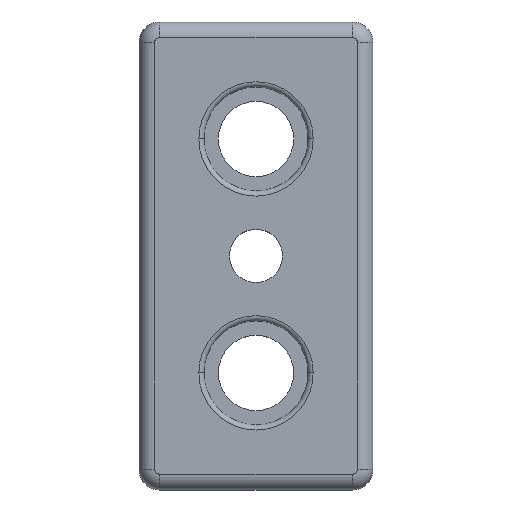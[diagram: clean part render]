
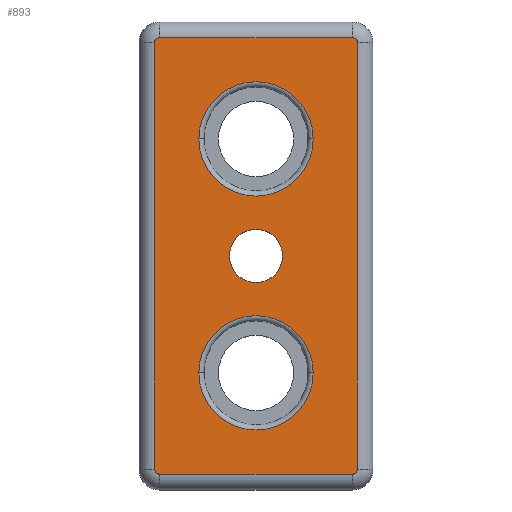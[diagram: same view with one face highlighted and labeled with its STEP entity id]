
A CAD part, top view. The second image highlights one B-rep face of the part: STEP entity #893.
In plain terms, the highlighted planar face has unit normal (0, 0, 1).
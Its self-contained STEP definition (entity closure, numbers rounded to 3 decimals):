
#34 = EDGE_CURVE ( 'NONE', #2995, #1838, #3167, .T. ) ;
#49 = AXIS2_PLACEMENT_3D ( 'NONE', #2146, #1425, #2662 ) ;
#58 = EDGE_CURVE ( 'NONE', #1505, #2999, #2575, .T. ) ;
#63 = EDGE_LOOP ( 'NONE', ( #1915, #1518, #1394, #161, #3008, #1358, #447, #2210 ) ) ;
#98 = CARTESIAN_POINT ( 'NONE',  ( 18.5, -41., 0. ) ) ;
#107 = CARTESIAN_POINT ( 'NONE',  ( 18.5, 42., 0. ) ) ;
#161 = ORIENTED_EDGE ( 'NONE', *, *, #2930, .T. ) ;
#202 = CIRCLE ( 'NONE', #998, 1. ) ;
#206 = CARTESIAN_POINT ( 'NONE',  ( -19.5, -41., 0. ) ) ;
#224 = CARTESIAN_POINT ( 'NONE',  ( 19.5, 41., 0. ) ) ;
#241 = VECTOR ( 'NONE', #1648, 1000. ) ;
#289 = EDGE_CURVE ( 'NONE', #1307, #2979, #581, .T. ) ;
#316 = VECTOR ( 'NONE', #834, 1000. ) ;
#338 = CARTESIAN_POINT ( 'NONE',  ( -18.5, 41., 0. ) ) ;
#368 = CARTESIAN_POINT ( 'NONE',  ( 18.5, 41., 0. ) ) ;
#380 = ORIENTED_EDGE ( 'NONE', *, *, #722, .T. ) ;
#414 = AXIS2_PLACEMENT_3D ( 'NONE', #1070, #817, #1789 ) ;
#447 = ORIENTED_EDGE ( 'NONE', *, *, #58, .T. ) ;
#450 = FACE_OUTER_BOUND ( 'NONE', #63, .T. ) ;
#452 = VERTEX_POINT ( 'NONE', #2811 ) ;
#458 = AXIS2_PLACEMENT_3D ( 'NONE', #1881, #2170, #877 ) ;
#483 = CARTESIAN_POINT ( 'NONE',  ( 11., 22.5, 0. ) ) ;
#520 = LINE ( 'NONE', #206, #915 ) ;
#566 = DIRECTION ( 'NONE',  ( 0., 0., -1. ) ) ;
#581 = CIRCLE ( 'NONE', #2617, 5.1 ) ;
#600 = CARTESIAN_POINT ( 'NONE',  ( 0., 22.5, 0. ) ) ;
#610 = EDGE_CURVE ( 'NONE', #2972, #1961, #3323, .T. ) ;
#624 = CIRCLE ( 'NONE', #2722, 5.1 ) ;
#629 = CARTESIAN_POINT ( 'NONE',  ( 19.5, -41., 0. ) ) ;
#649 = DIRECTION ( 'NONE',  ( 0., 0., -1. ) ) ;
#685 = CARTESIAN_POINT ( 'NONE',  ( 19.5, -41., 0. ) ) ;
#715 = CARTESIAN_POINT ( 'NONE',  ( -18.5, 42., 0. ) ) ;
#722 = EDGE_CURVE ( 'NONE', #2979, #1307, #624, .T. ) ;
#765 = VERTEX_POINT ( 'NONE', #3228 ) ;
#817 = DIRECTION ( 'NONE',  ( 0., 0., -1. ) ) ;
#834 = DIRECTION ( 'NONE',  ( -1., 0., 0. ) ) ;
#853 = EDGE_CURVE ( 'NONE', #3300, #1120, #202, .T. ) ;
#877 = DIRECTION ( 'NONE',  ( -1., 0., 0. ) ) ;
#889 = VECTOR ( 'NONE', #1954, 1000. ) ;
#893 = ADVANCED_FACE ( 'NONE', ( #2020, #450, #3278, #1489 ), #2806, .F. ) ;
#907 = CARTESIAN_POINT ( 'NONE',  ( -19.5, -41., 0. ) ) ;
#915 = VECTOR ( 'NONE', #2265, 1000. ) ;
#947 = CARTESIAN_POINT ( 'NONE',  ( -18.5, -41., 0. ) ) ;
#998 = AXIS2_PLACEMENT_3D ( 'NONE', #947, #1968, #2002 ) ;
#1070 = CARTESIAN_POINT ( 'NONE',  ( 0., -22.5, 0. ) ) ;
#1105 = EDGE_LOOP ( 'NONE', ( #2268, #1728 ) ) ;
#1115 = CIRCLE ( 'NONE', #2728, 1. ) ;
#1120 = VERTEX_POINT ( 'NONE', #1973 ) ;
#1149 = EDGE_CURVE ( 'NONE', #1120, #452, #3299, .T. ) ;
#1189 = DIRECTION ( 'NONE',  ( 0., 0., -1. ) ) ;
#1204 = EDGE_LOOP ( 'NONE', ( #380, #2860 ) ) ;
#1205 = CIRCLE ( 'NONE', #458, 11. ) ;
#1243 = AXIS2_PLACEMENT_3D ( 'NONE', #368, #3191, #2929 ) ;
#1307 = VERTEX_POINT ( 'NONE', #1564 ) ;
#1341 = EDGE_CURVE ( 'NONE', #765, #1505, #2423, .T. ) ;
#1358 = ORIENTED_EDGE ( 'NONE', *, *, #1341, .T. ) ;
#1369 = DIRECTION ( 'NONE',  ( -1., 0., 0. ) ) ;
#1394 = ORIENTED_EDGE ( 'NONE', *, *, #1631, .T. ) ;
#1405 = DIRECTION ( 'NONE',  ( -1., 0., 0. ) ) ;
#1415 = DIRECTION ( 'NONE',  ( -1., 0., 0. ) ) ;
#1425 = DIRECTION ( 'NONE',  ( 0., 0., -1. ) ) ;
#1465 = CARTESIAN_POINT ( 'NONE',  ( -5.1, 0., 0. ) ) ;
#1489 = FACE_BOUND ( 'NONE', #1105, .T. ) ;
#1505 = VERTEX_POINT ( 'NONE', #715 ) ;
#1518 = ORIENTED_EDGE ( 'NONE', *, *, #1149, .T. ) ;
#1552 = VERTEX_POINT ( 'NONE', #224 ) ;
#1564 = CARTESIAN_POINT ( 'NONE',  ( 5.1, 0., 0. ) ) ;
#1582 = DIRECTION ( 'NONE',  ( 0., 0., -1. ) ) ;
#1631 = EDGE_CURVE ( 'NONE', #452, #2008, #1115, .T. ) ;
#1648 = DIRECTION ( 'NONE',  ( 0., 1., 0. ) ) ;
#1663 = LINE ( 'NONE', #629, #241 ) ;
#1728 = ORIENTED_EDGE ( 'NONE', *, *, #34, .T. ) ;
#1761 = CARTESIAN_POINT ( 'NONE',  ( 18.5, -42., 0. ) ) ;
#1789 = DIRECTION ( 'NONE',  ( -1., 0., 0. ) ) ;
#1838 = VERTEX_POINT ( 'NONE', #2764 ) ;
#1881 = CARTESIAN_POINT ( 'NONE',  ( 0., -22.5, 0. ) ) ;
#1893 = EDGE_LOOP ( 'NONE', ( #2180, #3233 ) ) ;
#1915 = ORIENTED_EDGE ( 'NONE', *, *, #853, .T. ) ;
#1954 = DIRECTION ( 'NONE',  ( 1., 0., 0. ) ) ;
#1961 = VERTEX_POINT ( 'NONE', #2076 ) ;
#1968 = DIRECTION ( 'NONE',  ( 0., 0., 1. ) ) ;
#1973 = CARTESIAN_POINT ( 'NONE',  ( -18.5, -42., 0. ) ) ;
#2002 = DIRECTION ( 'NONE',  ( -1., 0., 0. ) ) ;
#2008 = VERTEX_POINT ( 'NONE', #685 ) ;
#2020 = FACE_BOUND ( 'NONE', #1204, .T. ) ;
#2062 = AXIS2_PLACEMENT_3D ( 'NONE', #2468, #1189, #2484 ) ;
#2076 = CARTESIAN_POINT ( 'NONE',  ( 11., -22.5, 0. ) ) ;
#2146 = CARTESIAN_POINT ( 'NONE',  ( 0., 22.5, 0. ) ) ;
#2170 = DIRECTION ( 'NONE',  ( 0., 0., -1. ) ) ;
#2172 = EDGE_CURVE ( 'NONE', #2999, #3300, #520, .T. ) ;
#2180 = ORIENTED_EDGE ( 'NONE', *, *, #610, .T. ) ;
#2210 = ORIENTED_EDGE ( 'NONE', *, *, #2172, .T. ) ;
#2265 = DIRECTION ( 'NONE',  ( 0., -1., 0. ) ) ;
#2268 = ORIENTED_EDGE ( 'NONE', *, *, #3270, .T. ) ;
#2348 = DIRECTION ( 'NONE',  ( 0., 0., 1. ) ) ;
#2401 = DIRECTION ( 'NONE',  ( -1., 0., 0. ) ) ;
#2423 = LINE ( 'NONE', #107, #316 ) ;
#2468 = CARTESIAN_POINT ( 'NONE',  ( 18.5, -41., 0. ) ) ;
#2481 = CIRCLE ( 'NONE', #1243, 1. ) ;
#2484 = DIRECTION ( 'NONE',  ( 0., -1., 0. ) ) ;
#2516 = AXIS2_PLACEMENT_3D ( 'NONE', #600, #566, #2401 ) ;
#2575 = CIRCLE ( 'NONE', #3275, 1. ) ;
#2610 = DIRECTION ( 'NONE',  ( -1., 0., 0. ) ) ;
#2617 = AXIS2_PLACEMENT_3D ( 'NONE', #2863, #1582, #2610 ) ;
#2662 = DIRECTION ( 'NONE',  ( -1., 0., 0. ) ) ;
#2722 = AXIS2_PLACEMENT_3D ( 'NONE', #3179, #649, #1405 ) ;
#2728 = AXIS2_PLACEMENT_3D ( 'NONE', #98, #3238, #1415 ) ;
#2764 = CARTESIAN_POINT ( 'NONE',  ( -11., 22.5, 0. ) ) ;
#2806 = PLANE ( 'NONE',  #2062 ) ;
#2811 = CARTESIAN_POINT ( 'NONE',  ( 18.5, -42., 0. ) ) ;
#2851 = EDGE_CURVE ( 'NONE', #1961, #2972, #1205, .T. ) ;
#2860 = ORIENTED_EDGE ( 'NONE', *, *, #289, .T. ) ;
#2863 = CARTESIAN_POINT ( 'NONE',  ( 0., 0., 0. ) ) ;
#2910 = EDGE_CURVE ( 'NONE', #1552, #765, #2481, .T. ) ;
#2929 = DIRECTION ( 'NONE',  ( -1., 0., 0. ) ) ;
#2930 = EDGE_CURVE ( 'NONE', #2008, #1552, #1663, .T. ) ;
#2941 = CIRCLE ( 'NONE', #49, 11. ) ;
#2972 = VERTEX_POINT ( 'NONE', #3034 ) ;
#2979 = VERTEX_POINT ( 'NONE', #1465 ) ;
#2995 = VERTEX_POINT ( 'NONE', #483 ) ;
#2999 = VERTEX_POINT ( 'NONE', #3254 ) ;
#3008 = ORIENTED_EDGE ( 'NONE', *, *, #2910, .T. ) ;
#3034 = CARTESIAN_POINT ( 'NONE',  ( -11., -22.5, 0. ) ) ;
#3167 = CIRCLE ( 'NONE', #2516, 11. ) ;
#3179 = CARTESIAN_POINT ( 'NONE',  ( 0., 0., 0. ) ) ;
#3191 = DIRECTION ( 'NONE',  ( 0., 0., 1. ) ) ;
#3228 = CARTESIAN_POINT ( 'NONE',  ( 18.5, 42., 0. ) ) ;
#3233 = ORIENTED_EDGE ( 'NONE', *, *, #2851, .T. ) ;
#3238 = DIRECTION ( 'NONE',  ( 0., 0., 1. ) ) ;
#3254 = CARTESIAN_POINT ( 'NONE',  ( -19.5, 41., 0. ) ) ;
#3270 = EDGE_CURVE ( 'NONE', #1838, #2995, #2941, .T. ) ;
#3275 = AXIS2_PLACEMENT_3D ( 'NONE', #338, #2348, #1369 ) ;
#3278 = FACE_BOUND ( 'NONE', #1893, .T. ) ;
#3299 = LINE ( 'NONE', #1761, #889 ) ;
#3300 = VERTEX_POINT ( 'NONE', #907 ) ;
#3323 = CIRCLE ( 'NONE', #414, 11. ) ;
